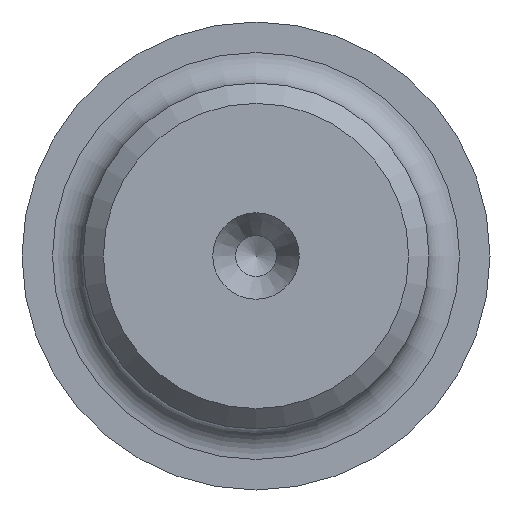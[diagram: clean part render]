
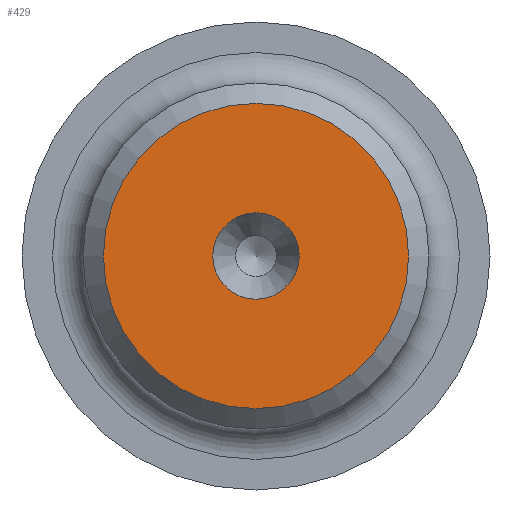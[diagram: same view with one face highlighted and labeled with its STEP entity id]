
A CAD part, left-side view. The second image highlights one B-rep face of the part: STEP entity #429.
In plain terms, the highlighted planar face has unit normal (-1, 0, 0).
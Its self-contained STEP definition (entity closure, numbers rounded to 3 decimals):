
#38=FACE_BOUND('',#82,.T.);
#43=PLANE('',#482);
#54=FACE_OUTER_BOUND('',#81,.T.);
#81=EDGE_LOOP('',(#301));
#82=EDGE_LOOP('',(#302));
#168=CIRCLE('',#481,7.5);
#169=CIRCLE('',#483,2.125);
#192=VERTEX_POINT('',#666);
#193=VERTEX_POINT('',#670);
#236=EDGE_CURVE('',#192,#192,#168,.T.);
#237=EDGE_CURVE('',#193,#193,#169,.T.);
#301=ORIENTED_EDGE('',*,*,#236,.F.);
#302=ORIENTED_EDGE('',*,*,#237,.T.);
#429=ADVANCED_FACE('',(#54,#38),#43,.T.);
#481=AXIS2_PLACEMENT_3D('',#668,#538,#539);
#482=AXIS2_PLACEMENT_3D('',#669,#540,#541);
#483=AXIS2_PLACEMENT_3D('',#671,#542,#543);
#538=DIRECTION('center_axis',(1.,0.,0.));
#539=DIRECTION('ref_axis',(0.,-1.,0.));
#540=DIRECTION('center_axis',(-1.,0.,0.));
#541=DIRECTION('ref_axis',(0.,0.,1.));
#542=DIRECTION('center_axis',(1.,0.,0.));
#543=DIRECTION('ref_axis',(0.,0.,-1.));
#666=CARTESIAN_POINT('',(0.,7.5,0.));
#668=CARTESIAN_POINT('Origin',(0.,0.,0.));
#669=CARTESIAN_POINT('Origin',(0.,8.5,0.));
#670=CARTESIAN_POINT('',(0.,-2.125,0.));
#671=CARTESIAN_POINT('Origin',(0.,0.,0.));
